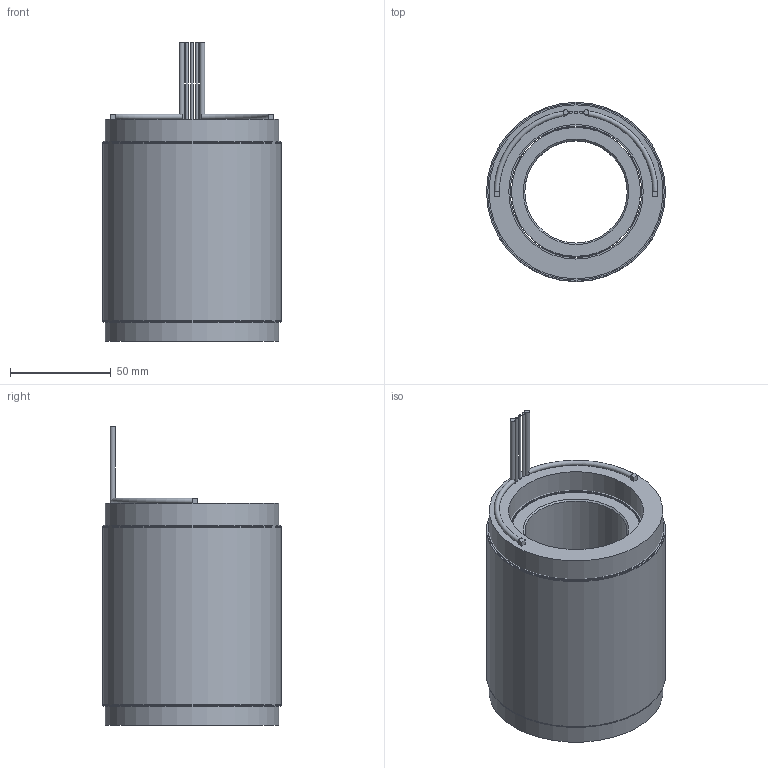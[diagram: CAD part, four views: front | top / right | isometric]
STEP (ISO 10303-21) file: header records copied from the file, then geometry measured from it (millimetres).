
FILE_DESCRIPTION (( 'STEP AP214' ), '1' );
FILE_NAME ('6100378-06.STEP', '2020-06-23T15:58:16', ( '' ), ( '' ), 'SwSTEP 2.0', 'SolidWorks 2016', '' );
FILE_SCHEMA (( 'AUTOMOTIVE_DESIGN' ));
Length unit declared in the file: inch
Products named in the file (10): 4250372-XX_4250372-06; 4600562-00; 4400100-00; comp4500552-XX(COIL)_comp4500552-06(COIL); 4450187-XX_4450187-06; 4500552-XX_4500552-06; 6100378-06; 4150176-XX_4150176-06
Assembly tree (10 placements, depth 4):
  6100378-06
    4500552-XX_4500552-06
      4450187-XX_4450187-06
        4450187-XX_4450187-06
        4400100-00
        4400100-00
        4600562-00  x2
      comp4500552-XX(COIL)_comp4500552-06(COIL)
    4250372-XX_4250372-06
      4150176-XX_4150176-06
Bounding box: 88.9 x 88.9 x 148.34 mm (x, y, z)
Volume: 623298.4 mm3; surface area: 165569.3 mm2
Topology: 11 solids, 11 shells, 58 faces, 91 edges, 60 vertices
Faces by surface type: plane 35, cylinder 19, torus 2, cone 2
Full cylindrical faces by diameter (mm): 1.27 x3, 2.54 x2, 50.8 x1, 64.008 x1, 65.278 x5, 66.801 x1, 86.36 x1, 87.63 x2, 88.9 x3
Entity records: 1612 total; most frequent: DIRECTION 244, CARTESIAN_POINT 190, ORIENTED_EDGE 128, AXIS2_PLACEMENT_3D 110, EDGE_LOOP 92, FACE_OUTER_BOUND 73, EDGE_CURVE 64, VERTEX_POINT 56
